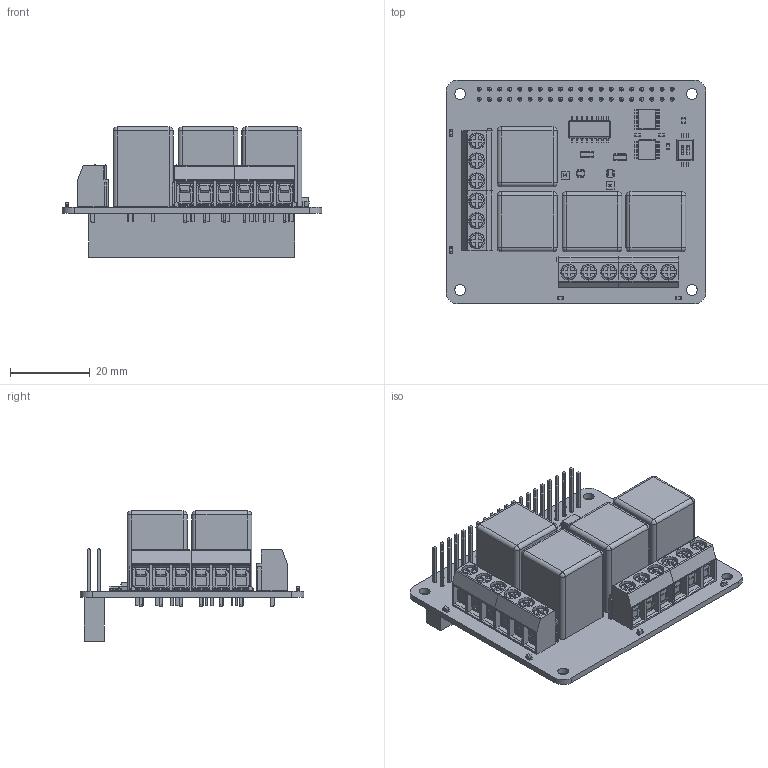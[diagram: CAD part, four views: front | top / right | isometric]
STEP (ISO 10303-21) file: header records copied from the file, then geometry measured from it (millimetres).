
FILE_DESCRIPTION(('FreeCAD Model'),'2;1');
FILE_NAME('Open CASCADE Shape Model','2026-04-26T17:34:17',(''),(''), 'Open CASCADE STEP processor 7.8','FreeCAD','Unknown');
FILE_SCHEMA(('AUTOMOTIVE_DESIGN { 1 0 10303 214 1 1 1 1 }'));
Length unit declared in the file: millimetre
Products named in the file (3): Unnamed; qReCon_PCB; Fusion
Assembly tree (2 placements, depth 2):
  Unnamed
    qReCon_PCB
    Fusion
Bounding box: 65 x 56 x 32.55 mm (x, y, z)
Volume: 30212.8 mm3; surface area: 23385 mm2
Topology: 84 solids, 84 shells, 3606 faces, 9415 edges, 6106 vertices
Faces by surface type: plane 2664, cylinder 770, bspline 84, torus 48, cone 24, sphere 16
Full cylindrical faces by diameter (mm): 0.104 x2, 1 x40, 1.3 x20, 1.52 x12, 2.7 x4, 4.02 x12
Entity records: 111153 total; most frequent: CARTESIAN_POINT 21192, ORIENTED_EDGE 18830, DIRECTION 17743, EDGE_CURVE 9415, LINE 7301, VECTOR 7301, VERTEX_POINT 6106, AXIS2_PLACEMENT_3D 5221
